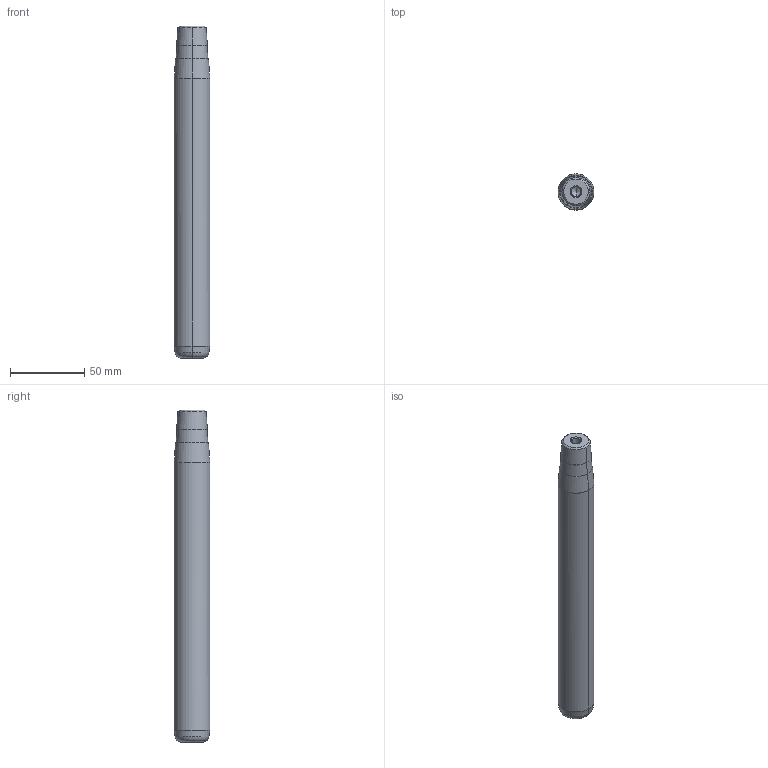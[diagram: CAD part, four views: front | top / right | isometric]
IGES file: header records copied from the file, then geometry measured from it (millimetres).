
Start section: START RECORD GO HERE.
Global section: file name: 722-24x200x223.igs; native system: DASSAULT SYSTEMES CATIA V5 R20 - www.3ds.com; preprocessor: CATIA Version 5 Release 20 ; author: Utente; organization: NB04-ASUS; date: 20210109.093229; units: millimetre
Bounding box: 24 x 24 x 223 mm (x, y, z)
Surface area: 18138.2 mm2 (no closed solid volume)
Topology: 0 solids, 0 shells, 32 faces, 192 edges, 188 vertices
Faces by surface type: revolution 30, plane 2
